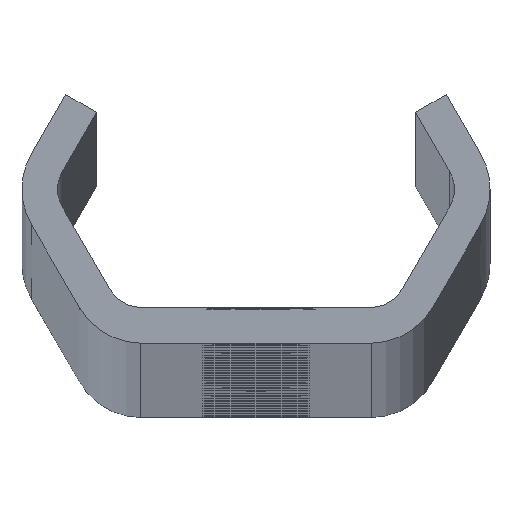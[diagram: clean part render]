
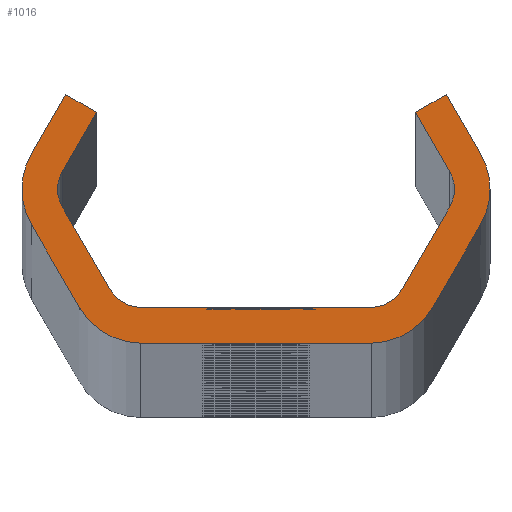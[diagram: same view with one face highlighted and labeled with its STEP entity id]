
A CAD part, top view. The second image highlights one B-rep face of the part: STEP entity #1016.
In plain terms, the highlighted planar face has unit normal (0, 0, 1).
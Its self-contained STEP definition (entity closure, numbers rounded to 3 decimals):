
#1016=ADVANCED_FACE('NONE',(#2854),#2855,.F.);
#2854=FACE_OUTER_BOUND('',#9365,.T.);
#2855=PLANE('',#9366);
#9365=EDGE_LOOP('',(#19139,#19140,#19141,#19142,#19143,#19144,#19145,#19146,#19147,#19148,#19149,#19150,#19151,#19152,#19153,#19154,#19155,#19156,#19157,#19158,#19159,#19160,#19161,#19162,#19163,#19164,#19165,#19166));
#9366=AXIS2_PLACEMENT_3D('',#19167,#19168,#19169);
#19139=ORIENTED_EDGE('',*,*,#25586,.F.);
#19140=ORIENTED_EDGE('',*,*,#25587,.T.);
#19141=ORIENTED_EDGE('',*,*,#25037,.T.);
#19142=ORIENTED_EDGE('',*,*,#25588,.T.);
#19143=ORIENTED_EDGE('',*,*,#25517,.T.);
#19144=ORIENTED_EDGE('',*,*,#25589,.T.);
#19145=ORIENTED_EDGE('',*,*,#24544,.T.);
#19146=ORIENTED_EDGE('',*,*,#25520,.T.);
#19147=ORIENTED_EDGE('',*,*,#25526,.T.);
#19148=ORIENTED_EDGE('',*,*,#25530,.T.);
#19149=ORIENTED_EDGE('',*,*,#25590,.T.);
#19150=ORIENTED_EDGE('',*,*,#25011,.T.);
#19151=ORIENTED_EDGE('',*,*,#25532,.T.);
#19152=ORIENTED_EDGE('',*,*,#25591,.T.);
#19153=ORIENTED_EDGE('',*,*,#25536,.T.);
#19154=ORIENTED_EDGE('',*,*,#25592,.T.);
#19155=ORIENTED_EDGE('',*,*,#25018,.T.);
#19156=ORIENTED_EDGE('',*,*,#25593,.T.);
#19157=ORIENTED_EDGE('',*,*,#24549,.T.);
#19158=ORIENTED_EDGE('',*,*,#25021,.T.);
#19159=ORIENTED_EDGE('',*,*,#25027,.T.);
#19160=ORIENTED_EDGE('',*,*,#25030,.T.);
#19161=ORIENTED_EDGE('',*,*,#25008,.T.);
#19162=ORIENTED_EDGE('',*,*,#25594,.T.);
#19163=ORIENTED_EDGE('',*,*,#25032,.T.);
#19164=ORIENTED_EDGE('',*,*,#25595,.T.);
#19165=ORIENTED_EDGE('',*,*,#25040,.T.);
#19166=ORIENTED_EDGE('',*,*,#25596,.T.);
#19167=CARTESIAN_POINT('',(0.0,0.0,3600.0));
#19168=DIRECTION('',(0.0,0.0,-1.0));
#19169=DIRECTION('',(0.0,-1.0,0.0));
#24544=EDGE_CURVE('NONE',#27333,#27337,#27339,.T.);
#24549=EDGE_CURVE('NONE',#27342,#27346,#27348,.T.);
#25008=EDGE_CURVE('NONE',#28174,#28172,#28175,.T.);
#25011=EDGE_CURVE('NONE',#28178,#28179,#28180,.T.);
#25018=EDGE_CURVE('NONE',#28192,#28190,#28193,.T.);
#25021=EDGE_CURVE('NONE',#27346,#28196,#28197,.T.);
#25027=EDGE_CURVE('NONE',#28196,#28204,#28206,.T.);
#25030=EDGE_CURVE('NONE',#28204,#28174,#28209,.T.);
#25032=EDGE_CURVE('NONE',#28211,#28212,#28213,.T.);
#25037=EDGE_CURVE('NONE',#28220,#28221,#28222,.T.);
#25040=EDGE_CURVE('NONE',#28227,#28225,#28228,.T.);
#25517=EDGE_CURVE('NONE',#29112,#29110,#29113,.T.);
#25520=EDGE_CURVE('NONE',#27337,#29116,#29117,.T.);
#25526=EDGE_CURVE('NONE',#29116,#29124,#29126,.T.);
#25530=EDGE_CURVE('NONE',#29124,#29130,#29132,.T.);
#25532=EDGE_CURVE('NONE',#28179,#29134,#29135,.T.);
#25536=EDGE_CURVE('NONE',#29140,#29141,#29142,.T.);
#25586=EDGE_CURVE('NONE',#29194,#29195,#29196,.T.);
#25587=EDGE_CURVE('NONE',#29194,#28220,#29197,.T.);
#25588=EDGE_CURVE('NONE',#28221,#29112,#29198,.T.);
#25589=EDGE_CURVE('NONE',#29110,#27333,#29199,.T.);
#25590=EDGE_CURVE('NONE',#29130,#28178,#29200,.T.);
#25591=EDGE_CURVE('NONE',#29134,#29140,#29201,.T.);
#25592=EDGE_CURVE('NONE',#29141,#28192,#29202,.T.);
#25593=EDGE_CURVE('NONE',#28190,#27342,#29203,.T.);
#25594=EDGE_CURVE('NONE',#28172,#28211,#29204,.T.);
#25595=EDGE_CURVE('NONE',#28212,#28227,#29205,.T.);
#25596=EDGE_CURVE('NONE',#28225,#29195,#29206,.T.);
#27333=VERTEX_POINT('',#31466);
#27337=VERTEX_POINT('NONE',#31471);
#27339=CIRCLE('',#31474,3.0);
#27342=VERTEX_POINT('',#31477);
#27346=VERTEX_POINT('NONE',#31482);
#27348=CIRCLE('',#31485,6.0);
#28172=VERTEX_POINT('NONE',#36423);
#28174=VERTEX_POINT('NONE',#36426);
#28175=CIRCLE('',#36427,3.0);
#28178=VERTEX_POINT('NONE',#36431);
#28179=VERTEX_POINT('NONE',#36432);
#28180=CIRCLE('',#36433,6.0);
#28190=VERTEX_POINT('NONE',#36446);
#28192=VERTEX_POINT('NONE',#36449);
#28193=LINE('',#36450,#36451);
#28196=VERTEX_POINT('NONE',#36455);
#28197=LINE('',#36456,#36457);
#28204=VERTEX_POINT('NONE',#36467);
#28206=LINE('',#36470,#36471);
#28209=LINE('',#36475,#36476);
#28211=VERTEX_POINT('NONE',#36478);
#28212=VERTEX_POINT('NONE',#36479);
#28213=LINE('',#36480,#36481);
#28220=VERTEX_POINT('NONE',#36491);
#28221=VERTEX_POINT('NONE',#36492);
#28222=LINE('',#36493,#36494);
#28225=VERTEX_POINT('NONE',#36498);
#28227=VERTEX_POINT('NONE',#36501);
#28228=LINE('',#36502,#36503);
#29110=VERTEX_POINT('NONE',#39737);
#29112=VERTEX_POINT('NONE',#39740);
#29113=LINE('',#39741,#39742);
#29116=VERTEX_POINT('NONE',#39746);
#29117=LINE('',#39747,#39748);
#29124=VERTEX_POINT('NONE',#39758);
#29126=LINE('',#39761,#39762);
#29130=VERTEX_POINT('NONE',#39767);
#29132=LINE('',#39770,#39771);
#29134=VERTEX_POINT('NONE',#39773);
#29135=LINE('',#39774,#39775);
#29140=VERTEX_POINT('NONE',#39782);
#29141=VERTEX_POINT('NONE',#39783);
#29142=LINE('',#39784,#39785);
#29194=VERTEX_POINT('NONE',#39840);
#29195=VERTEX_POINT('NONE',#39841);
#29196=LINE('',#39842,#39843);
#29197=LINE('',#39844,#39845);
#29198=CIRCLE('',#39846,3.0);
#29199=CIRCLE('',#39847,3.0);
#29200=CIRCLE('',#39848,6.0);
#29201=CIRCLE('',#39849,6.0);
#29202=CIRCLE('',#39850,6.0);
#29203=CIRCLE('',#39851,6.0);
#29204=CIRCLE('',#39852,3.0);
#29205=CIRCLE('',#39853,3.0);
#29206=LINE('',#39854,#39855);
#31466=CARTESIAN_POINT('',(-16.764,0.,3600.0));
#31471=CARTESIAN_POINT('',(-16.362,1.5,3600.0));
#31474=AXIS2_PLACEMENT_3D('',#47383,#47384,#47385);
#31477=CARTESIAN_POINT('',(19.764,0.,3600.0));
#31482=CARTESIAN_POINT('',(18.96,3.,3600.0));
#31485=AXIS2_PLACEMENT_3D('',#47391,#47392,#47393);
#36423=CARTESIAN_POINT('',(16.764,0.,3600.0));
#36426=CARTESIAN_POINT('',(16.362,1.5,3600.0));
#36427=AXIS2_PLACEMENT_3D('',#47850,#47851,#47852);
#36431=CARTESIAN_POINT('',(-19.764,0.,3600.0));
#36432=CARTESIAN_POINT('',(-18.96,-3.,3600.0));
#36433=AXIS2_PLACEMENT_3D('',#47854,#47855,#47856);
#36446=CARTESIAN_POINT('',(18.96,-3.,3600.0));
#36449=CARTESIAN_POINT('',(14.919,-10.,3600.0));
#36450=CARTESIAN_POINT('',(20.692,0.,3600.0));
#36451=VECTOR('',#47864,1000.0);
#36455=CARTESIAN_POINT('',(16.074,8.,3600.0));
#36456=CARTESIAN_POINT('',(16.074,8.,3600.0));
#36457=VECTOR('',#47866,1000.0);
#36467=CARTESIAN_POINT('',(13.475,6.5,3600.0));
#36470=CARTESIAN_POINT('',(13.475,6.5,3600.0));
#36471=VECTOR('',#47871,1000.0);
#36475=CARTESIAN_POINT('',(17.228,0.,3600.0));
#36476=VECTOR('',#47873,1000.0);
#36478=CARTESIAN_POINT('',(16.362,-1.5,3600.0));
#36479=CARTESIAN_POINT('',(12.321,-8.5,3600.0));
#36480=CARTESIAN_POINT('',(11.455,-10.0,3600.0));
#36481=VECTOR('',#47874,1000.0);
#36491=CARTESIAN_POINT('',(-4.063,-10.0,3600.0));
#36492=CARTESIAN_POINT('',(-9.723,-10.0,3600.0));
#36493=CARTESIAN_POINT('',(-11.455,-10.0,3600.0));
#36494=VECTOR('',#47878,1000.0);
#36498=CARTESIAN_POINT('',(-3.458,-10.0,3600.0));
#36501=CARTESIAN_POINT('',(9.723,-10.0,3600.0));
#36502=CARTESIAN_POINT('',(-11.455,-10.0,3600.0));
#36503=VECTOR('',#47881,1000.0);
#39737=CARTESIAN_POINT('',(-16.362,-1.5,3600.0));
#39740=CARTESIAN_POINT('',(-12.321,-8.5,3600.0));
#39741=CARTESIAN_POINT('',(-17.228,0.,3600.0));
#39742=VECTOR('',#48400,1000.0);
#39746=CARTESIAN_POINT('',(-13.475,6.5,3600.0));
#39747=CARTESIAN_POINT('',(-13.475,6.5,3600.0));
#39748=VECTOR('',#48402,1000.0);
#39758=CARTESIAN_POINT('',(-16.074,8.,3600.0));
#39761=CARTESIAN_POINT('',(-13.475,6.5,3600.0));
#39762=VECTOR('',#48407,1000.0);
#39767=CARTESIAN_POINT('',(-18.96,3.,3600.0));
#39770=CARTESIAN_POINT('',(-16.074,8.,3600.0));
#39771=VECTOR('',#48410,1000.0);
#39773=CARTESIAN_POINT('',(-14.919,-10.,3600.0));
#39774=CARTESIAN_POINT('',(-20.692,0.,3600.0));
#39775=VECTOR('',#48411,1000.0);
#39782=CARTESIAN_POINT('',(-9.723,-13.0,3600.0));
#39783=CARTESIAN_POINT('',(9.723,-13.0,3600.0));
#39784=CARTESIAN_POINT('',(-13.187,-13.0,3600.0));
#39785=VECTOR('',#48414,1000.0);
#39840=CARTESIAN_POINT('',(-4.063,-10.1,3600.0));
#39841=CARTESIAN_POINT('',(-3.458,-10.1,3600.0));
#39842=CARTESIAN_POINT('',(0.0,-10.1,3600.0));
#39843=VECTOR('',#48553,1000.0);
#39844=CARTESIAN_POINT('',(-4.063,0.,3600.0));
#39845=VECTOR('',#48554,1000.0);
#39846=AXIS2_PLACEMENT_3D('',#48555,#48556,#48557);
#39847=AXIS2_PLACEMENT_3D('',#48558,#48559,#48560);
#39848=AXIS2_PLACEMENT_3D('',#48561,#48562,#48563);
#39849=AXIS2_PLACEMENT_3D('',#48564,#48565,#48566);
#39850=AXIS2_PLACEMENT_3D('',#48567,#48568,#48569);
#39851=AXIS2_PLACEMENT_3D('',#48570,#48571,#48572);
#39852=AXIS2_PLACEMENT_3D('',#48573,#48574,#48575);
#39853=AXIS2_PLACEMENT_3D('',#48576,#48577,#48578);
#39854=CARTESIAN_POINT('',(-3.458,0.,3600.0));
#39855=VECTOR('',#48579,1000.0);
#47383=CARTESIAN_POINT('',(-13.764,0.,3600.0));
#47384=DIRECTION('',(0.0,0.0,-1.0));
#47385=DIRECTION('',(-1.0,0.0,0.0));
#47391=CARTESIAN_POINT('',(13.764,0.,3600.0));
#47392=DIRECTION('',(0.0,0.0,1.0));
#47393=DIRECTION('',(-1.0,0.0,0.0));
#47850=CARTESIAN_POINT('',(13.764,0.,3600.0));
#47851=DIRECTION('',(0.0,0.0,-1.0));
#47852=DIRECTION('',(-1.0,0.0,0.0));
#47854=CARTESIAN_POINT('',(-13.764,0.,3600.0));
#47855=DIRECTION('',(0.0,0.0,1.0));
#47856=DIRECTION('',(-1.0,0.0,0.0));
#47864=DIRECTION('',(0.5,0.866,-0.0));
#47866=DIRECTION('',(-0.5,0.866,-0.0));
#47871=DIRECTION('',(-0.866,-0.5,-0.0));
#47873=DIRECTION('',(0.5,-0.866,-0.0));
#47874=DIRECTION('',(-0.5,-0.866,-0.0));
#47878=DIRECTION('',(-1.0,0.,-0.0));
#47881=DIRECTION('',(-1.0,0.,-0.0));
#48400=DIRECTION('',(-0.5,0.866,-0.0));
#48402=DIRECTION('',(0.5,0.866,-0.0));
#48407=DIRECTION('',(-0.866,0.5,0.0));
#48410=DIRECTION('',(-0.5,-0.866,0.0));
#48411=DIRECTION('',(0.5,-0.866,0.0));
#48414=DIRECTION('',(1.0,0.0,0.0));
#48553=DIRECTION('',(1.0,0.0,0.0));
#48554=DIRECTION('',(0.,1.0,0.0));
#48555=CARTESIAN_POINT('',(-9.723,-7.0,3600.0));
#48556=DIRECTION('',(0.0,0.0,-1.0));
#48557=DIRECTION('',(-1.0,0.0,0.0));
#48558=CARTESIAN_POINT('',(-13.764,0.,3600.0));
#48559=DIRECTION('',(0.0,0.0,-1.0));
#48560=DIRECTION('',(-1.0,0.0,0.0));
#48561=CARTESIAN_POINT('',(-13.764,0.,3600.0));
#48562=DIRECTION('',(0.0,0.0,1.0));
#48563=DIRECTION('',(-1.0,0.,0.0));
#48564=CARTESIAN_POINT('',(-9.723,-7.0,3600.0));
#48565=DIRECTION('',(0.0,0.0,1.0));
#48566=DIRECTION('',(-1.0,0.0,0.0));
#48567=CARTESIAN_POINT('',(9.723,-7.0,3600.0));
#48568=DIRECTION('',(0.0,0.0,1.0));
#48569=DIRECTION('',(-1.0,0.,0.0));
#48570=CARTESIAN_POINT('',(13.764,0.,3600.0));
#48571=DIRECTION('',(0.0,0.0,1.0));
#48572=DIRECTION('',(-1.0,0.0,0.0));
#48573=CARTESIAN_POINT('',(13.764,0.,3600.0));
#48574=DIRECTION('',(0.0,0.0,-1.0));
#48575=DIRECTION('',(-1.0,0.0,0.0));
#48576=CARTESIAN_POINT('',(9.723,-7.0,3600.0));
#48577=DIRECTION('',(0.0,0.0,-1.0));
#48578=DIRECTION('',(-1.0,0.0,0.0));
#48579=DIRECTION('',(0.,-1.0,0.0));
